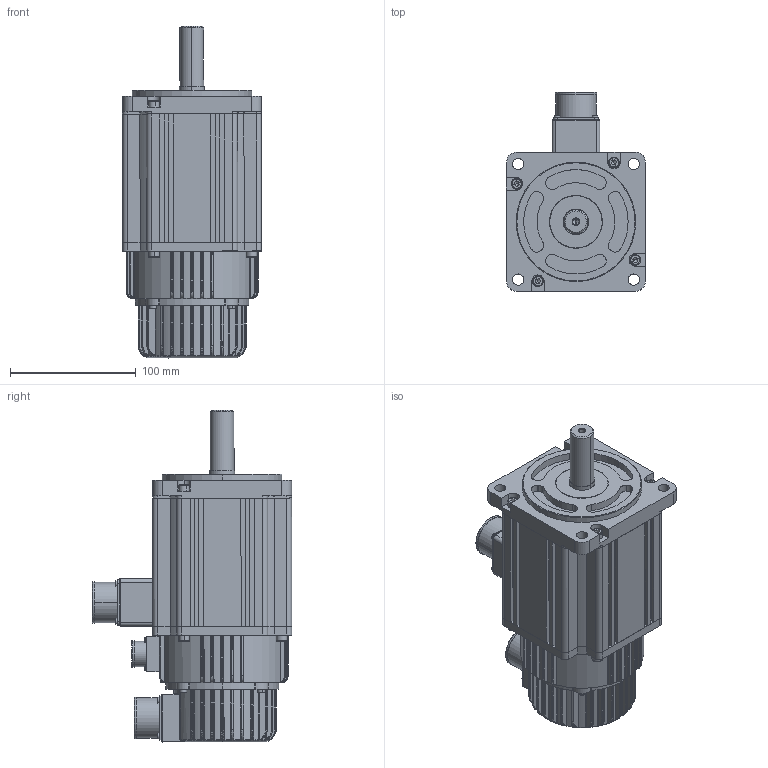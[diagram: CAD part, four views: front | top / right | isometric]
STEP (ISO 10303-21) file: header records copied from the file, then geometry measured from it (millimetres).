
FILE_DESCRIPTION (( 'STEP AP214' ), '1' );
FILE_NAME ('110B1ST-M06420Z.STEP', '2022-01-25T01:21:20', ( '' ), ( '' ), 'SwSTEP 2.0', 'SolidWorks 2020', '' );
FILE_SCHEMA (( 'AUTOMOTIVE_DESIGN' ));
Length unit declared in the file: millimetre
Products named in the file (11): hexagon socket head cap screws gb_GB_FASTENER_SCREWS_HSHCS M5X35-N; cross recessed small pan head screws gb_GB_CROSS_SCREWS_TYPE3 M2.5X10-10-N; 110BST晤鎢ん綴欶; 110BST儂旯; hexagon socket head cap screws gb_GB_FASTENER_SCREWS_HSHCS M3X10-N; 110BST堤粣; 110BST綴傷裔惕掅; ZHOUCHENG; 瑤脣1; 110B1ST-M06420Z; 110BSTヶ傷裔堤粣
Assembly tree (31 placements, depth 2):
  110B1ST-M06420Z
    110BST儂旯
    110BST堤粣
    110BST綴傷裔惕掅
    110BST晤鎢ん綴欶
    瑤脣1
    hexagon socket head cap screws gb_GB_FASTENER_SCREWS_HSHCS M5X35-N  x8
    hexagon socket head cap screws gb_GB_FASTENER_SCREWS_HSHCS M3X10-N  x4
    cross recessed small pan head screws gb_GB_CROSS_SCREWS_TYPE3 M2.5X10-10-N  x12
    110BSTヶ傷裔堤粣
    ZHOUCHENG
Bounding box: 110.58 x 158.53 x 264.05 mm (x, y, z)
Volume: 1555375.8 mm3; surface area: 238536.8 mm2
Topology: 31 solids, 34 shells, 2190 faces, 5390 edges, 3159 vertices
Faces by surface type: cylinder 721, plane 616, bspline 422, torus 319, cone 80, sphere 32
Entity records: 62912 total; most frequent: CARTESIAN_POINT 25989, ORIENTED_EDGE 7892, DIRECTION 7446, EDGE_CURVE 3946, AXIS2_PLACEMENT_3D 3091, VERTEX_POINT 2345, CIRCLE 1814, EDGE_LOOP 1747
